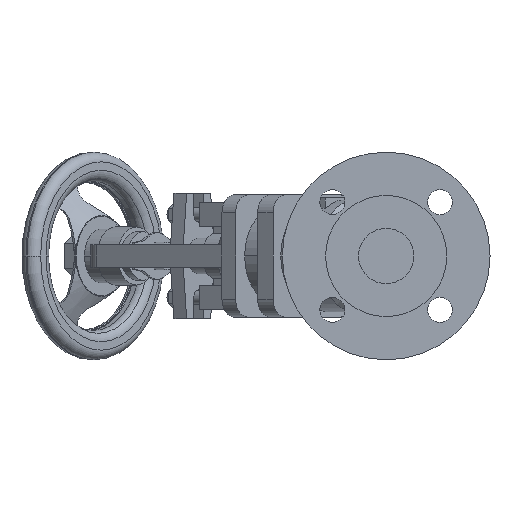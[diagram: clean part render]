
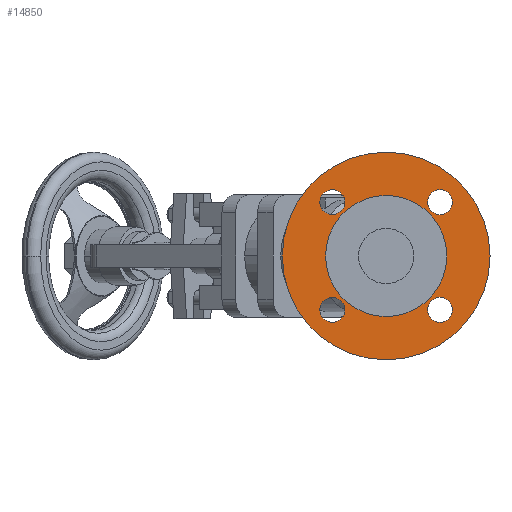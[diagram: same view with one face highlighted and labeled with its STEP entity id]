
A CAD part, left-side view. The second image highlights one B-rep face of the part: STEP entity #14850.
In plain terms, the highlighted planar face has unit normal (-1, 0, 0).
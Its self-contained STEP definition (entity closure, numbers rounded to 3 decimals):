
#3630=CARTESIAN_POINT('',(3.77,43.76,0.));
#3640=VERTEX_POINT('',#3630);
#3670=CARTESIAN_POINT('',(3.77,0.,0.));
#3680=DIRECTION('',(-1.,0.,0.));
#3690=DIRECTION('',(0.,1.,0.));
#3700=AXIS2_PLACEMENT_3D('',#3670,#3680,#3690);
#3710=CIRCLE('',#3700,43.76);
#3720=CARTESIAN_POINT('',(3.77,-43.76,0.));
#3730=VERTEX_POINT('',#3720);
#3740=EDGE_CURVE('',#3730,#3640,#3710,.T.);
#6320=CARTESIAN_POINT('',(3.77,0.,75.));
#6330=VERTEX_POINT('',#6320);
#6510=CARTESIAN_POINT('',(3.77,0.,-75.));
#6520=VERTEX_POINT('',#6510);
#6550=CARTESIAN_POINT('',(3.77,0.,0.));
#6560=DIRECTION('',(1.,0.,0.));
#6570=DIRECTION('',(0.,0.,-1.));
#6580=AXIS2_PLACEMENT_3D('',#6550,#6560,#6570);
#6590=CIRCLE('',#6580,75.);
#6600=EDGE_CURVE('',#6330,#6520,#6590,.T.);
#6810=CARTESIAN_POINT('',(3.77,38.891,-47.891));
#6820=VERTEX_POINT('',#6810);
#7000=CARTESIAN_POINT('',(3.77,38.891,-29.891));
#7010=VERTEX_POINT('',#7000);
#7040=CARTESIAN_POINT('',(3.77,38.891,-38.891));
#7050=DIRECTION('',(-1.,0.,0.));
#7060=DIRECTION('',(0.,0.,-1.));
#7070=AXIS2_PLACEMENT_3D('',#7040,#7050,#7060);
#7080=CIRCLE('',#7070,9.);
#7090=EDGE_CURVE('',#6820,#7010,#7080,.T.);
#7300=CARTESIAN_POINT('',(3.77,-38.891,-29.891));
#7310=VERTEX_POINT('',#7300);
#7360=CARTESIAN_POINT('',(3.77,-38.891,-38.891));
#7370=DIRECTION('',(-1.,0.,0.));
#7380=DIRECTION('',(0.,0.,-1.));
#7390=AXIS2_PLACEMENT_3D('',#7360,#7370,#7380);
#7400=CIRCLE('',#7390,9.);
#7410=CARTESIAN_POINT('',(3.77,-38.891,-47.891));
#7420=VERTEX_POINT('',#7410);
#7430=EDGE_CURVE('',#7420,#7310,#7400,.T.);
#7790=CARTESIAN_POINT('',(3.77,38.891,47.891));
#7800=VERTEX_POINT('',#7790);
#7980=CARTESIAN_POINT('',(3.77,38.891,29.891));
#7990=VERTEX_POINT('',#7980);
#8020=CARTESIAN_POINT('',(3.77,38.891,38.891));
#8030=DIRECTION('',(-1.,0.,0.));
#8040=DIRECTION('',(0.,0.,-1.));
#8050=AXIS2_PLACEMENT_3D('',#8020,#8030,#8040);
#8060=CIRCLE('',#8050,9.);
#8070=EDGE_CURVE('',#7800,#7990,#8060,.T.);
#8280=CARTESIAN_POINT('',(3.77,-38.891,29.891));
#8290=VERTEX_POINT('',#8280);
#8470=CARTESIAN_POINT('',(3.77,-38.891,47.891));
#8480=VERTEX_POINT('',#8470);
#8510=CARTESIAN_POINT('',(3.77,-38.891,38.891));
#8520=DIRECTION('',(-1.,0.,0.));
#8530=DIRECTION('',(0.,0.,-1.));
#8540=AXIS2_PLACEMENT_3D('',#8510,#8520,#8530);
#8550=CIRCLE('',#8540,9.);
#8560=EDGE_CURVE('',#8290,#8480,#8550,.T.);
#14500=CARTESIAN_POINT('',(3.77,0.,0.));
#14510=DIRECTION('',(1.,0.,0.));
#14520=DIRECTION('',(0.,0.,-1.));
#14530=AXIS2_PLACEMENT_3D('',#14500,#14510,#14520);
#14540=PLANE('',#14530);
#14550=EDGE_CURVE('',#8480,#8290,#8550,.T.);
#14560=ORIENTED_EDGE('',*,*,#14550,.F.);
#14570=ORIENTED_EDGE('',*,*,#8560,.F.);
#14580=EDGE_LOOP('',(#14570,#14560));
#14590=FACE_BOUND('',#14580,.T.);
#14600=EDGE_CURVE('',#7990,#7800,#8060,.T.);
#14610=ORIENTED_EDGE('',*,*,#14600,.F.);
#14620=ORIENTED_EDGE('',*,*,#8070,.F.);
#14630=EDGE_LOOP('',(#14620,#14610));
#14640=FACE_BOUND('',#14630,.T.);
#14650=EDGE_CURVE('',#7310,#7420,#7400,.T.);
#14660=ORIENTED_EDGE('',*,*,#14650,.F.);
#14670=ORIENTED_EDGE('',*,*,#7430,.F.);
#14680=EDGE_LOOP('',(#14670,#14660));
#14690=FACE_BOUND('',#14680,.T.);
#14700=EDGE_CURVE('',#7010,#6820,#7080,.T.);
#14710=ORIENTED_EDGE('',*,*,#14700,.F.);
#14720=ORIENTED_EDGE('',*,*,#7090,.F.);
#14730=EDGE_LOOP('',(#14720,#14710));
#14740=FACE_BOUND('',#14730,.T.);
#14750=EDGE_CURVE('',#6520,#6330,#6590,.T.);
#14760=ORIENTED_EDGE('',*,*,#14750,.F.);
#14770=ORIENTED_EDGE('',*,*,#6600,.F.);
#14780=EDGE_LOOP('',(#14770,#14760));
#14790=FACE_OUTER_BOUND('',#14780,.T.);
#14800=ORIENTED_EDGE('',*,*,#3740,.F.);
#14810=EDGE_CURVE('',#3640,#3730,#3710,.T.);
#14820=ORIENTED_EDGE('',*,*,#14810,.F.);
#14830=EDGE_LOOP('',(#14820,#14800));
#14840=FACE_BOUND('',#14830,.T.);
#14850=ADVANCED_FACE('',(#14590,#14640,#14690,#14740,#14790,#14840),
#14540,.F.);
